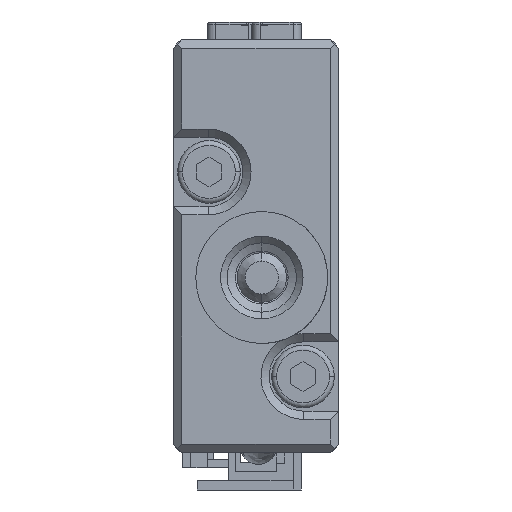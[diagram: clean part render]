
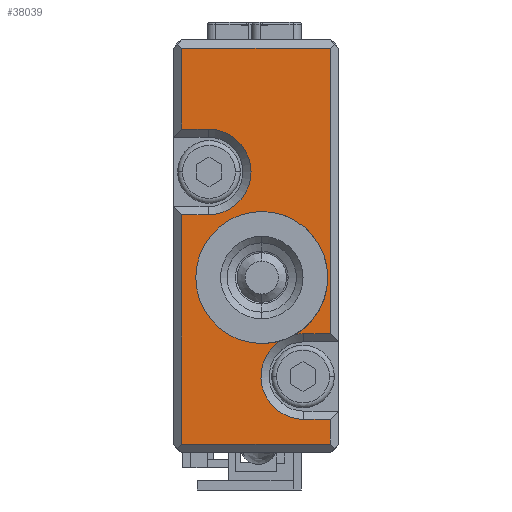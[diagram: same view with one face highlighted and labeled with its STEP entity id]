
A CAD part, left-side view. The second image highlights one B-rep face of the part: STEP entity #38039.
In plain terms, the highlighted planar face has unit normal (-1, 0, 0).
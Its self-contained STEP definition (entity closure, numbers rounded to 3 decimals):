
#2528=CARTESIAN_POINT('',(-34.5,4.55,-1.8));
#2529=DIRECTION('',(-1.,0.,0.));
#2530=DIRECTION('',(0.,0.,-1.));
#2531=AXIS2_PLACEMENT_3D('',#2528,#2529,#2530);
#2533=CARTESIAN_POINT('',(-34.5,2.,-7.8));
#2534=DIRECTION('',(1.,0.,0.));
#2535=DIRECTION('',(0.,0.,-1.));
#2536=AXIS2_PLACEMENT_3D('',#2533,#2534,#2535);
#2538=DIRECTION('',(0.,1.,0.));
#2539=VECTOR('',#2538,1.6);
#2540=CARTESIAN_POINT('',(-34.5,0.4,-10.4));
#2541=LINE('',#2540,#2539);
#2542=DIRECTION('',(0.,0.,-1.));
#2543=VECTOR('',#2542,1.5);
#2544=CARTESIAN_POINT('',(-34.5,0.4,-10.4));
#2545=LINE('',#2544,#2543);
#2546=DIRECTION('',(0.,1.,0.));
#2547=VECTOR('',#2546,9.);
#2548=CARTESIAN_POINT('',(-34.5,0.4,-11.9));
#2549=LINE('',#2548,#2547);
#2550=DIRECTION('',(0.,0.,-1.));
#2551=VECTOR('',#2550,13.9);
#2552=CARTESIAN_POINT('',(-34.5,9.4,2.));
#2553=LINE('',#2552,#2551);
#2554=DIRECTION('',(0.,1.,0.));
#2555=VECTOR('',#2554,1.6);
#2556=CARTESIAN_POINT('',(-34.5,7.8,2.));
#2557=LINE('',#2556,#2555);
#2558=CARTESIAN_POINT('',(-34.5,7.8,4.6));
#2559=DIRECTION('',(1.,0.,0.));
#2560=DIRECTION('',(0.,0.,1.));
#2561=AXIS2_PLACEMENT_3D('',#2558,#2559,#2560);
#2563=DIRECTION('',(0.,-1.,0.));
#2564=VECTOR('',#2563,1.6);
#2565=CARTESIAN_POINT('',(-34.5,9.4,7.2));
#2566=LINE('',#2565,#2564);
#2567=DIRECTION('',(0.,0.,-1.));
#2568=VECTOR('',#2567,4.9);
#2569=CARTESIAN_POINT('',(-34.5,9.4,12.1));
#2570=LINE('',#2569,#2568);
#2571=DIRECTION('',(0.,-1.,0.));
#2572=VECTOR('',#2571,9.);
#2573=CARTESIAN_POINT('',(-34.5,9.4,12.1));
#2574=LINE('',#2573,#2572);
#2575=DIRECTION('',(0.,0.,-1.));
#2576=VECTOR('',#2575,17.3);
#2577=CARTESIAN_POINT('',(-34.5,0.4,12.1));
#2578=LINE('',#2577,#2576);
#2579=DIRECTION('',(0.,-1.,0.));
#2580=VECTOR('',#2579,1.6);
#2581=CARTESIAN_POINT('',(-34.5,2.,
-5.2));
#2582=LINE('',#2581,#2580);
#2583=CARTESIAN_POINT('',(-34.5,2.,-7.8));
#2584=DIRECTION('',(1.,0.,0.));
#2585=DIRECTION('',(0.,0.206,0.979));
#2586=AXIS2_PLACEMENT_3D('',#2583,#2584,#2585);
#2588=CARTESIAN_POINT('',(-34.5,4.55,-1.8));
#2589=DIRECTION('',(-1.,0.,0.));
#2590=DIRECTION('',(0.,-0.504,-0.864));
#2591=AXIS2_PLACEMENT_3D('',#2588,#2589,#2590);
#2593=CARTESIAN_POINT('',(-34.5,4.55,-1.8));
#2594=DIRECTION('',(-1.,0.,0.));
#2595=DIRECTION('',(0.,0.,1.));
#2596=AXIS2_PLACEMENT_3D('',#2593,#2594,#2595);
#35459=CARTESIAN_POINT('',(-34.5,9.4,12.1));
#35460=CARTESIAN_POINT('',(-34.5,0.4,12.1));
#35461=VERTEX_POINT('',#35459);
#35462=VERTEX_POINT('',#35460);
#35477=CARTESIAN_POINT('',(-34.5,0.4,-11.9));
#35478=CARTESIAN_POINT('',(-34.5,9.4,-11.9));
#35479=VERTEX_POINT('',#35477);
#35480=VERTEX_POINT('',#35478);
#35496=CARTESIAN_POINT('',(-34.5,0.4,-10.4));
#35498=VERTEX_POINT('',#35496);
#35499=CARTESIAN_POINT('',(-34.5,2.,
-10.4));
#35500=VERTEX_POINT('',#35499);
#35504=CARTESIAN_POINT('',(-34.5,9.4,7.2));
#35506=VERTEX_POINT('',#35504);
#35507=CARTESIAN_POINT('',(-34.5,7.8,
7.2));
#35508=VERTEX_POINT('',#35507);
#35513=CARTESIAN_POINT('',(-34.5,0.4,-5.2));
#35514=VERTEX_POINT('',#35513);
#35525=CARTESIAN_POINT('',(-34.5,2.,
-5.2));
#35526=VERTEX_POINT('',#35525);
#35527=CARTESIAN_POINT('',(-34.5,9.4,2.));
#35529=VERTEX_POINT('',#35527);
#35533=CARTESIAN_POINT('',(-34.5,7.8,
2.));
#35534=VERTEX_POINT('',#35533);
#35585=CARTESIAN_POINT('',(-34.5,4.55,-5.8));
#35586=CARTESIAN_POINT('',(-34.5,3.46,-5.649));
#35587=VERTEX_POINT('',#35585);
#35588=VERTEX_POINT('',#35586);
#35589=CARTESIAN_POINT('',(-34.5,2.536,-5.256));
#35590=CARTESIAN_POINT('',(-34.5,4.55,2.2));
#35591=VERTEX_POINT('',#35589);
#35592=VERTEX_POINT('',#35590);
#38002=CARTESIAN_POINT('',(-34.5,9.9,-12.4));
#38003=DIRECTION('',(-1.,0.,0.));
#38004=DIRECTION('',(0.,-1.,0.));
#38005=AXIS2_PLACEMENT_3D('',#38002,#38003,#38004);
#38006=PLANE('',#38005);
#38007=ORIENTED_EDGE('',*,*,#37988,.T.);
#38009=ORIENTED_EDGE('',*,*,#38008,.F.);
#38011=ORIENTED_EDGE('',*,*,#38010,.F.);
#38013=ORIENTED_EDGE('',*,*,#38012,.T.);
#38015=ORIENTED_EDGE('',*,*,#38014,.T.);
#38017=ORIENTED_EDGE('',*,*,#38016,.F.);
#38019=ORIENTED_EDGE('',*,*,#38018,.F.);
#38021=ORIENTED_EDGE('',*,*,#38020,.F.);
#38023=ORIENTED_EDGE('',*,*,#38022,.F.);
#38025=ORIENTED_EDGE('',*,*,#38024,.F.);
#38027=ORIENTED_EDGE('',*,*,#38026,.T.);
#38029=ORIENTED_EDGE('',*,*,#38028,.T.);
#38031=ORIENTED_EDGE('',*,*,#38030,.F.);
#38033=ORIENTED_EDGE('',*,*,#38032,.F.);
#38034=ORIENTED_EDGE('',*,*,#37995,.T.);
#38036=ORIENTED_EDGE('',*,*,#38035,.T.);
#38037=EDGE_LOOP('',(#38007,#38009,#38011,#38013,#38015,#38017,#38019,#38021,
#38023,#38025,#38027,#38029,#38031,#38033,#38034,#38036));
#38038=FACE_OUTER_BOUND('',#38037,.F.);
#38039=ADVANCED_FACE('',(#38038),#38006,.T.);
#2532=CIRCLE('',#2531,4.);
#2537=CIRCLE('',#2536,2.6);
#2562=CIRCLE('',#2561,2.6);
#2587=CIRCLE('',#2586,2.6);
#2592=CIRCLE('',#2591,4.);
#2597=CIRCLE('',#2596,4.);
#37988=EDGE_CURVE('',#35587,#35588,#2532,.T.);
#37995=EDGE_CURVE('',#35591,#35592,#2592,.T.);
#38008=EDGE_CURVE('',#35500,#35588,#2537,.T.);
#38010=EDGE_CURVE('',#35498,#35500,#2541,.T.);
#38012=EDGE_CURVE('',#35498,#35479,#2545,.T.);
#38014=EDGE_CURVE('',#35479,#35480,#2549,.T.);
#38016=EDGE_CURVE('',#35529,#35480,#2553,.T.);
#38018=EDGE_CURVE('',#35534,#35529,#2557,.T.);
#38020=EDGE_CURVE('',#35508,#35534,#2562,.T.);
#38022=EDGE_CURVE('',#35506,#35508,#2566,.T.);
#38024=EDGE_CURVE('',#35461,#35506,#2570,.T.);
#38026=EDGE_CURVE('',#35461,#35462,#2574,.T.);
#38028=EDGE_CURVE('',#35462,#35514,#2578,.T.);
#38030=EDGE_CURVE('',#35526,#35514,#2582,.T.);
#38032=EDGE_CURVE('',#35591,#35526,#2587,.T.);
#38035=EDGE_CURVE('',#35592,#35587,#2597,.T.);
